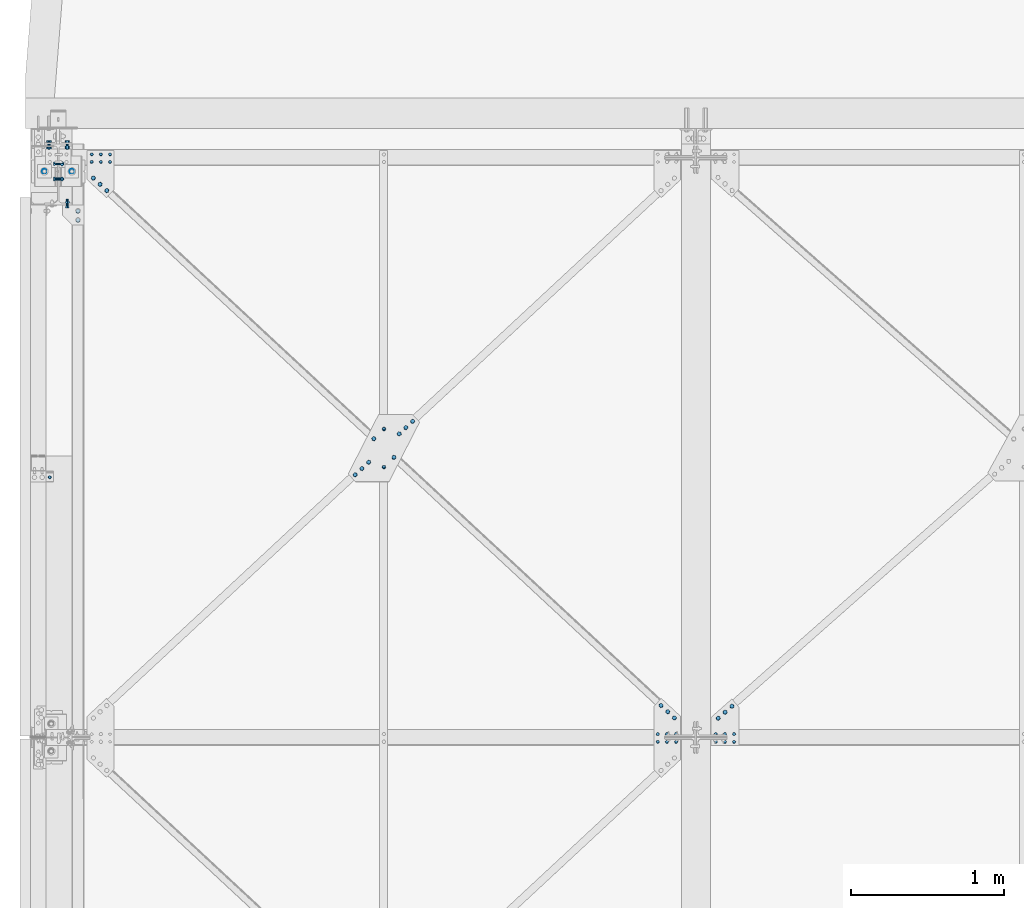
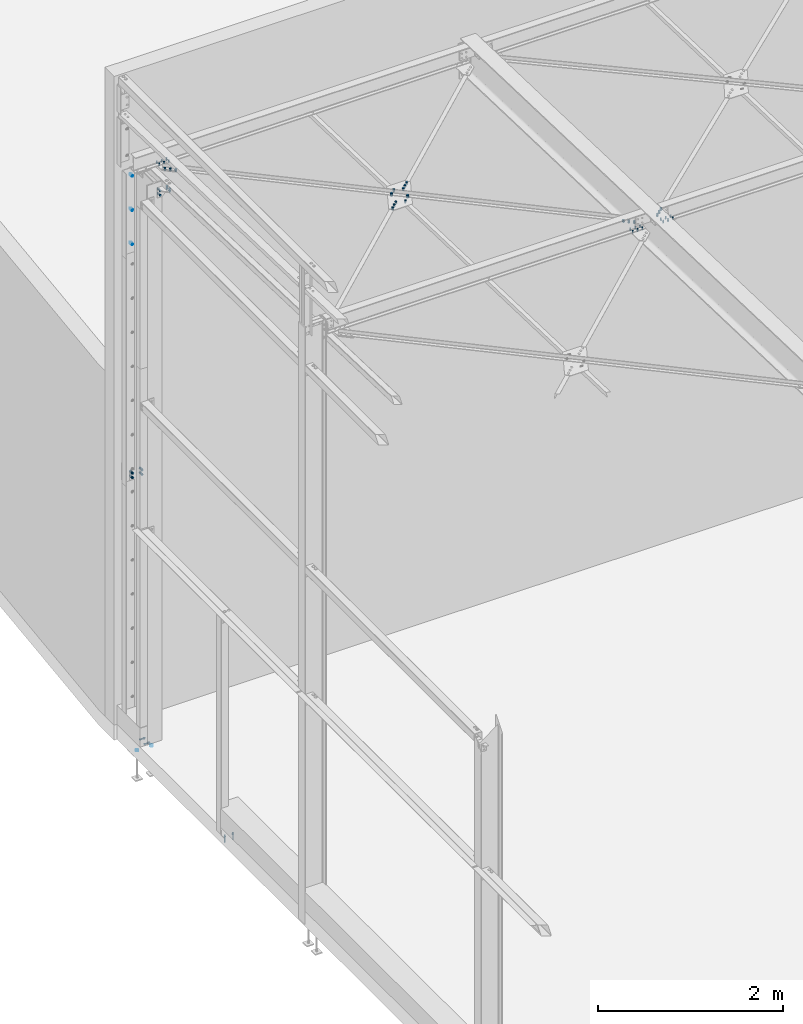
# One storey, part 151 of 362: 18 mechanical fasteners.
"""IFC2X3 building model written with IfcOpenShell, lengths in millimetres."""

from ifc_helpers import new_model, si_unit, frame, origin_with_axes, origin_2d_with_axis, place, context, subcontext, project, spatial, polyline, circle, outline, extrude, source, transform, mapped, material, type_object, element, save


model = new_model("IFC2X3")

# Units and contexts
model_context = context("Model", 3, precision=1e-05, world=origin_with_axes())
body_context = subcontext(model_context, "Body", "Model", "MODEL_VIEW")
ifc_project = project(units=[si_unit("LENGTHUNIT", "METRE", prefix="MILLI"), si_unit("AREAUNIT", "SQUARE_METRE"), si_unit("VOLUMEUNIT", "CUBIC_METRE"), si_unit("MASSUNIT", "GRAM", prefix="KILO"), si_unit("TIMEUNIT", "SECOND"), si_unit("PLANEANGLEUNIT", "RADIAN"), si_unit("SOLIDANGLEUNIT", "STERADIAN"), si_unit("THERMODYNAMICTEMPERATUREUNIT", "DEGREE_CELSIUS"), si_unit("LUMINOUSINTENSITYUNIT", "LUMEN")], contexts=[model_context])

# Site, building, storey
site_placement = place(None, origin_with_axes())
site = spatial("IfcSite", under=ifc_project, at=site_placement, Name="Undefined", CompositionType="ELEMENT")
building_placement = place(site_placement, origin_with_axes())
building = spatial("IfcBuilding", under=site, at=building_placement, Name="Undefined", CompositionType="ELEMENT")
storey_placement = place(building_placement, origin_with_axes())
storey = spatial("IfcBuildingStorey", under=building, at=storey_placement, Name="Undefined", CompositionType="ELEMENT", Elevation=0.0)

# Mechanical fasteners
ifc_material_1 = material(Name="8.8-SB-ZINGUE")
mechanical_fastener_type = type_object("IfcMechanicalFastenerType", Name="Bolt assembly")
shared_shape_1 = source(origin_with_axes(), body_context, "Body", "SweptSolid", [
    extrude(circle(Radius=7.0, at=origin_2d_with_axis()), frame((0.0, -0.100011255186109, 0.0), z_axis=(0.0, 1.0, 0.0), x_axis=(1.0, 0.0, 0.0)), (0.0, 0.0, 1.0), 13.6),
    extrude(circle(Radius=7.0, at=origin_2d_with_axis()), frame((0.0, -4.90000000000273, 0.0), z_axis=(0.0, 1.0, 0.0), x_axis=(1.0, 0.0, 0.0)), (0.0, 0.0, 1.0), 5.0),
    extrude(outline(polyline([(10.39230484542, 0.0), (5.19615242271, 9.00000000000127), (-5.19615242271, 9.00000000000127), (-10.39230484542, 0.0), (-5.19615242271, -9.00000000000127), (5.19615242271, -9.00000000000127), (10.39230484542, 0.0)])), frame((0.0, -12.9200004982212, 0.0), z_axis=(0.0, 1.0, 0.0), x_axis=(1.0, 0.0, 0.0)), (0.0, 0.0, 1.0), 7.92),
    extrude(circle(Radius=6.0, at=origin_2d_with_axis()), frame((0.0, -5.00000000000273, 0.0), z_axis=(0.0, 1.0, 0.0), x_axis=(1.0, 0.0, 0.0)), (0.0, 0.0, 1.0), 40.0),
    extrude(outline(polyline([(11.5008173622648, 0.0), (5.7504086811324, 9.96000000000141), (-5.7504086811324, 9.96000000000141), (-11.5008173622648, 0.0), (-5.7504086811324, -9.96000000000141), (5.7504086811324, -9.96000000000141), (11.5008173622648, 0.0)])), frame((0.0, 13.4999999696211, 0.0), z_axis=(0.0, 1.0, 0.0), x_axis=(1.0, 0.0, 0.0)), (0.0, 0.0, 1.0), 7.92),
])
mechanical_fastener_1_placement = place(storey_placement, frame((-60.0000079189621, 15276.500002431, 6810.00003069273), z_axis=(0.0, 0.0, -1.0), x_axis=(-1.0, 0.0, 0.0)))
element("IfcMechanicalFastener", 1, at=mechanical_fastener_1_placement, inside=storey, type_object=mechanical_fastener_type, material=ifc_material_1, Name="Bolt assembly", NominalDiameter=12.0, NominalLength=40.0, context=body_context, shape_type="MappedRepresentation", body=[
    mapped(shared_shape_1, transform((0.0, 0.0, -450.0))),
    mapped(shared_shape_1, transform((0.0, 0.0, 0.0))),
    mapped(shared_shape_1, transform((0.0, 0.0, 450.0))),
])
shared_shape_2 = source(origin_with_axes(), body_context, "Body", "SweptSolid", [
    extrude(circle(Radius=7.0, at=origin_2d_with_axis()), frame((0.0, -8.40001950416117, 0.0), z_axis=(0.0, 1.0, 0.0), x_axis=(1.0, 0.0, 0.0)), (0.0, 0.0, 1.0), 8.5),
    extrude(circle(Radius=7.0, at=origin_2d_with_axis()), frame((0.0, -0.100011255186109, 0.0), z_axis=(0.0, 1.0, 0.0), x_axis=(1.0, 0.0, 0.0)), (0.0, 0.0, 1.0), 6.1),
    extrude(outline(polyline([(10.39230484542, 0.0), (5.19615242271, 9.00000000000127), (-5.19615242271, 9.00000000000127), (-10.39230484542, 0.0), (-5.19615242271, -9.00000000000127), (5.19615242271, -9.00000000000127), (10.39230484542, 0.0)])), frame((0.0, -16.4200195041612, 0.0), z_axis=(0.0, 1.0, 0.0), x_axis=(1.0, 0.0, 0.0)), (0.0, 0.0, 1.0), 7.92),
    extrude(circle(Radius=6.0, at=origin_2d_with_axis()), frame((0.0, -8.5, 0.0), z_axis=(0.0, 1.0, 0.0), x_axis=(1.0, 0.0, 0.0)), (0.0, 0.0, 1.0), 30.0),
    extrude(outline(polyline([(11.5008173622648, 0.0), (5.7504086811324, 9.96000000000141), (-5.7504086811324, 9.96000000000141), (-11.5008173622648, 0.0), (-5.7504086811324, -9.96000000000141), (5.7504086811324, -9.96000000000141), (11.5008173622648, 0.0)])), frame((0.0, 6.0, 0.0), z_axis=(0.0, 1.0, 0.0), x_axis=(1.0, 0.0, 0.0)), (0.0, 0.0, 1.0), 7.92),
])
mechanical_fastener_2_placement = place(storey_placement, frame((220.000006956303, 15196.8588775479, 7372.32065103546), z_axis=(3.14103090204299e-11, 0.999506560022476, -0.0314107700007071), x_axis=(1.0, 0.0, 0.0)))
element("IfcMechanicalFastener", 2, at=mechanical_fastener_2_placement, inside=storey, type_object=mechanical_fastener_type, material=ifc_material_1, Name="Bolt assembly", NominalDiameter=12.0, NominalLength=30.0, context=body_context, shape_type="MappedRepresentation", body=[
    mapped(shared_shape_2, transform((0.0, 0.0, 25.0))),
    mapped(shared_shape_2, transform((60.00000000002, -1.00044417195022e-11, 24.9999999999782))),
    mapped(shared_shape_2, transform((120.00000000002, -1.90993887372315e-11, 24.9999999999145))),
    mapped(shared_shape_2, transform((0.0, 0.0, -25.0))),
    mapped(shared_shape_2, transform((59.9999999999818, -8.18545231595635e-12, -25.0000000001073))),
    mapped(shared_shape_2, transform((119.999999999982, -1.72803993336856e-11, -25.0000000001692))),
])
shared_shape_3 = source(origin_with_axes(), body_context, "Body", "SweptSolid", [
    extrude(circle(Radius=9.0, at=origin_2d_with_axis()), frame((0.0, 5.90507997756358, 0.0), z_axis=(0.0, 1.0, 0.0), x_axis=(1.0, 0.0, 0.0)), (0.0, 0.0, 1.0), 5.1),
    extrude(circle(Radius=9.0, at=origin_2d_with_axis()), frame((0.0, 0.1, 0.0), z_axis=(0.0, 1.0, 0.0), x_axis=(1.0, 0.0, 0.0)), (0.0, 0.0, 1.0), 6.0),
    extrude(outline(polyline([(13.85640646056, 0.0), (6.92820323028, 12.0000000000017), (-6.92820323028, 12.0000000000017), (-13.85640646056, 0.0), (-6.92820323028, -12.0000000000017), (6.92820323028, -12.0000000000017), (13.85640646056, 0.0)])), frame((0.0, -10.5600019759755, 0.0), z_axis=(0.0, 1.0, 0.0), x_axis=(1.0, 0.0, 0.0)), (0.0, 0.0, 1.0), 10.56),
    extrude(circle(Radius=8.0, at=origin_2d_with_axis()), frame((0.0, 0.0, 0.0), z_axis=(0.0, 1.0, 0.0), x_axis=(1.0, 0.0, 0.0)), (0.0, 0.0, 1.0), 30.0),
    extrude(outline(polyline([(15.3344231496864, 0.0), (7.6672115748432, 13.2800000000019), (-7.6672115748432, 13.2800000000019), (-15.3344231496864, 0.0), (-7.6672115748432, -13.2800000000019), (7.6672115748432, -13.2800000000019), (15.3344231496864, 0.0)])), frame((0.0, 11.005079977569, 0.0), z_axis=(0.0, 1.0, 0.0), x_axis=(1.0, 0.0, 0.0)), (0.0, 0.0, 1.0), 10.56),
])
mechanical_fastener_3_placement = place(storey_placement, frame((4326.09147071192, 11525.9582901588, 7487.68503665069), z_axis=(-0.662411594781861, 0.748770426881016, -0.023531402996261), x_axis=(0.74914009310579, 0.662084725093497, -0.0208071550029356)))
element("IfcMechanicalFastener", 3, at=mechanical_fastener_3_placement, inside=storey, type_object=mechanical_fastener_type, material=ifc_material_1, Name="Bolt assembly", NominalDiameter=16.0, NominalLength=30.0, context=body_context, shape_type="MappedRepresentation", body=[
    mapped(shared_shape_3, transform((0.0, 0.0, 0.0))),
    mapped(shared_shape_3, transform((60.0, 0.0, 0.0))),
    mapped(shared_shape_3, transform((120.0, 0.0, 0.0))),
])
shared_shape_4 = source(origin_with_axes(), body_context, "Body", "SweptSolid", [
    extrude(circle(Radius=7.0, at=origin_2d_with_axis()), frame((0.0, -8.39654616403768, 0.0), z_axis=(0.0, 1.0, 0.0), x_axis=(1.0, 0.0, 0.0)), (0.0, 0.0, 1.0), 8.5),
    extrude(circle(Radius=7.0, at=origin_2d_with_axis()), frame((0.0, -0.100011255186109, 0.0), z_axis=(0.0, 1.0, 0.0), x_axis=(1.0, 0.0, 0.0)), (0.0, 0.0, 1.0), 6.1),
    extrude(outline(polyline([(10.39230484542, 0.0), (5.19615242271, 9.00000000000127), (-5.19615242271, 9.00000000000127), (-10.39230484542, 0.0), (-5.19615242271, -9.00000000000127), (5.19615242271, -9.00000000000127), (10.39230484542, 0.0)])), frame((0.0, -16.4165461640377, 0.0), z_axis=(0.0, 1.0, 0.0), x_axis=(1.0, 0.0, 0.0)), (0.0, 0.0, 1.0), 7.92),
    extrude(circle(Radius=6.0, at=origin_2d_with_axis()), frame((0.0, -8.49654616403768, 0.0), z_axis=(0.0, 1.0, 0.0), x_axis=(1.0, 0.0, 0.0)), (0.0, 0.0, 1.0), 30.0),
    extrude(outline(polyline([(11.5008173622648, 0.0), (5.7504086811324, 9.96000000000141), (-5.7504086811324, 9.96000000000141), (-11.5008173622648, 0.0), (-5.7504086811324, -9.96000000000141), (5.7504086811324, -9.96000000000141), (11.5008173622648, 0.0)])), frame((0.0, 6.0, 0.0), z_axis=(0.0, 1.0, 0.0), x_axis=(1.0, 0.0, 0.0)), (0.0, 0.0, 1.0), 7.92),
])
for number, where, z_axis, x_axis, name in (
    (4, (4310.0000069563, 11396.8549319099, 7491.74233248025), (3.14103090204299e-11, 0.999506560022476, -0.0314107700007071), (1.0, 0.0, 0.0), "Bolt assembly"),
    (5, (4049.99999943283, 11396.8586773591, 7491.7422147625), (-1.26212139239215e-05, -0.999506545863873, 0.0314112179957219), (-0.999999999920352, 1.26150000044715e-05, -3.95999996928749e-07), "Bolt assembly"),
):
    element("IfcMechanicalFastener", number, at=place(storey_placement, frame(where, z_axis=z_axis, x_axis=x_axis)), inside=storey, type_object=mechanical_fastener_type, material=ifc_material_1, Name=name, NominalDiameter=12.0, NominalLength=30.0, context=body_context, shape_type="MappedRepresentation", body=[
        mapped(shared_shape_4, transform((0.0, 0.0, -25.0))),
        mapped(shared_shape_4, transform((59.9999999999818, -8.18545231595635e-12, -25.0000000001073))),
        mapped(shared_shape_4, transform((119.999999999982, -1.72803993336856e-11, -25.0000000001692))),
        mapped(shared_shape_4, transform((0.0, 0.0, 25.0))),
        mapped(shared_shape_4, transform((60.00000000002, -1.00044417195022e-11, 24.9999999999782))),
        mapped(shared_shape_4, transform((120.00000000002, -1.90993887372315e-11, 24.9999999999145))),
    ])
shared_shape_5 = source(origin_with_axes(), body_context, "Body", "SweptSolid", [
    extrude(circle(Radius=7.0, at=origin_2d_with_axis()), frame((0.0, -0.0999426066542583, 0.0), z_axis=(0.0, 1.0, 0.0), x_axis=(1.0, 0.0, 0.0)), (0.0, 0.0, 1.0), 5.1),
    extrude(circle(Radius=7.0, at=origin_2d_with_axis()), frame((0.0, 0.100057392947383, 0.0), z_axis=(0.0, 1.0, 0.0), x_axis=(1.0, 0.0, 0.0)), (0.0, 0.0, 1.0), 6.0),
    extrude(outline(polyline([(10.39230484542, 0.0), (5.19615242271, 9.00000000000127), (-5.19615242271, 9.00000000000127), (-10.39230484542, 0.0), (-5.19615242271, -9.00000000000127), (5.19615242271, -9.00000000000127), (10.39230484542, 0.0)])), frame((0.0, -7.91994260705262, 0.0), z_axis=(0.0, 1.0, 0.0), x_axis=(1.0, 0.0, 0.0)), (0.0, 0.0, 1.0), 7.92),
    extrude(circle(Radius=6.0, at=origin_2d_with_axis()), frame((0.0, 6.26397177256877e-05, 0.0), z_axis=(0.0, 1.0, 0.0), x_axis=(1.0, 0.0, 0.0)), (0.0, 0.0, 1.0), 30.0),
    extrude(outline(polyline([(11.5008173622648, 0.0), (5.7504086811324, 9.96000000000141), (-5.7504086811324, 9.96000000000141), (-11.5008173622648, 0.0), (-5.7504086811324, -9.96000000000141), (5.7504086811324, -9.96000000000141), (11.5008173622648, 0.0)])), frame((0.0, 6.00005739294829, 0.0), z_axis=(0.0, 1.0, 0.0), x_axis=(1.0, 0.0, 0.0)), (0.0, 0.0, 1.0), 7.92),
])
mechanical_fastener_4_placement = place(storey_placement, frame((2135.0000740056, 13296.8585640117, 7432.03143958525), z_axis=(0.0, -0.999506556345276, 0.031410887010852), x_axis=(-1.0, 0.0, 0.0)))
element("IfcMechanicalFastener", 6, at=mechanical_fastener_4_placement, inside=storey, type_object=mechanical_fastener_type, material=ifc_material_1, Name="Bolt assembly", NominalDiameter=12.0, NominalLength=30.0, context=body_context, shape_type="MappedRepresentation", body=[
    mapped(shared_shape_5, transform((0.0, -1.17324816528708e-10, -124.999999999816))),
    mapped(shared_shape_5, transform((0.0, 1.17324816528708e-10, 124.999999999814))),
])
shared_shape_6 = source(origin_with_axes(), body_context, "Body", "SweptSolid", [
    extrude(circle(Radius=9.0, at=origin_2d_with_axis()), frame((0.0, 5.90435274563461, 0.0), z_axis=(0.0, 1.0, 0.0), x_axis=(1.0, 0.0, 0.0)), (0.0, 0.0, 1.0), 5.1),
    extrude(circle(Radius=9.0, at=origin_2d_with_axis()), frame((0.0, 0.1, 0.0), z_axis=(0.0, 1.0, 0.0), x_axis=(1.0, 0.0, 0.0)), (0.0, 0.0, 1.0), 6.0),
    extrude(outline(polyline([(13.85640646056, 0.0), (6.92820323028, 12.0000000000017), (-6.92820323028, 12.0000000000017), (-13.85640646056, 0.0), (-6.92820323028, -12.0000000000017), (6.92820323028, -12.0000000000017), (13.85640646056, 0.0)])), frame((0.0, -10.5600019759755, 0.0), z_axis=(0.0, 1.0, 0.0), x_axis=(1.0, 0.0, 0.0)), (0.0, 0.0, 1.0), 10.56),
    extrude(circle(Radius=8.0, at=origin_2d_with_axis()), frame((0.0, 0.0, 0.0), z_axis=(0.0, 1.0, 0.0), x_axis=(1.0, 0.0, 0.0)), (0.0, 0.0, 1.0), 30.0),
    extrude(outline(polyline([(15.3344231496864, 0.0), (7.6672115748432, 13.2800000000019), (-7.6672115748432, 13.2800000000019), (-15.3344231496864, 0.0), (-7.6672115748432, -13.2800000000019), (7.6672115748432, -13.2800000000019), (15.3344231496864, 0.0)])), frame((0.0, 11.0043527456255, 0.0), z_axis=(0.0, 1.0, 0.0), x_axis=(1.0, 0.0, 0.0)), (0.0, 0.0, 1.0), 10.56),
])
mechanical_fastener_5_placement = place(storey_placement, frame((2235.26634015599, 13390.0155494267, 7429.10382057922), z_axis=(-0.680837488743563, 0.73207308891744, -0.0230066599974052), x_axis=(0.732434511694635, 0.680501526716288, -0.0213859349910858)))
element("IfcMechanicalFastener", 7, at=mechanical_fastener_5_placement, inside=storey, type_object=mechanical_fastener_type, material=ifc_material_1, Name="Bolt assembly", NominalDiameter=16.0, NominalLength=30.0, context=body_context, shape_type="MappedRepresentation", body=[
    mapped(shared_shape_6, transform((0.0, 0.0, 0.0))),
    mapped(shared_shape_6, transform((60.0, 0.0, 0.0))),
    mapped(shared_shape_6, transform((120.0, 0.0, 0.0))),
])
shared_shape_7 = source(origin_with_axes(), body_context, "Body", "SweptSolid", [
    extrude(circle(Radius=9.0, at=origin_2d_with_axis()), frame((0.0, -4.89761641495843, 0.0), z_axis=(0.0, 1.0, 0.0), x_axis=(1.0, 0.0, 0.0)), (0.0, 0.0, 1.0), 5.0),
    extrude(circle(Radius=9.0, at=origin_2d_with_axis()), frame((0.0, -0.100011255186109, 0.0), z_axis=(0.0, 1.0, 0.0), x_axis=(1.0, 0.0, 0.0)), (0.0, 0.0, 1.0), 6.1),
    extrude(outline(polyline([(13.85640646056, 0.0), (6.92820323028, 12.0000000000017), (-6.92820323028, 12.0000000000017), (-13.85640646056, 0.0), (-6.92820323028, -12.0000000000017), (6.92820323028, -12.0000000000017), (13.85640646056, 0.0)])), frame((0.0, -15.5576164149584, 0.0), z_axis=(0.0, 1.0, 0.0), x_axis=(1.0, 0.0, 0.0)), (0.0, 0.0, 1.0), 10.56),
    extrude(circle(Radius=8.0, at=origin_2d_with_axis()), frame((0.0, -4.99761641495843, 0.0), z_axis=(0.0, 1.0, 0.0), x_axis=(1.0, 0.0, 0.0)), (0.0, 0.0, 1.0), 30.0),
    extrude(outline(polyline([(15.3344231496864, 0.0), (7.6672115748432, 13.2800000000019), (-7.6672115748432, 13.2800000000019), (-15.3344231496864, 0.0), (-7.6672115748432, -13.2800000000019), (7.6672115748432, -13.2800000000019), (15.3344231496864, 0.0)])), frame((0.0, 6.0, 0.0), z_axis=(0.0, 1.0, 0.0), x_axis=(1.0, 0.0, 0.0)), (0.0, 0.0, 1.0), 10.56),
])
mechanical_fastener_6_placement = place(storey_placement, frame((2135.00000157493, 13296.8585526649, 7432.03143995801), z_axis=(-0.732427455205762, 0.680509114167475, -0.0213861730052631), x_axis=(0.680845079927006, 0.732066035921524, -0.0230064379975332)))
element("IfcMechanicalFastener", 8, at=mechanical_fastener_6_placement, inside=storey, type_object=mechanical_fastener_type, material=ifc_material_1, Name="Bolt assembly", NominalDiameter=16.0, NominalLength=30.0, context=body_context, shape_type="MappedRepresentation", body=[
    mapped(shared_shape_7, transform((-8.00355337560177e-11, 1.57342583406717e-10, -90.000000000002))),
    mapped(shared_shape_7, transform((8.36735125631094e-11, -1.5825207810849e-10, 90.0))),
])
shared_shape_8 = source(origin_with_axes(), body_context, "Body", "SweptSolid", [
    extrude(circle(Radius=9.0, at=origin_2d_with_axis()), frame((0.0, 5.90424749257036, 0.0), z_axis=(0.0, 1.0, 0.0), x_axis=(1.0, 0.0, 0.0)), (0.0, 0.0, 1.0), 5.1),
    extrude(circle(Radius=9.0, at=origin_2d_with_axis()), frame((0.0, 0.1, 0.0), z_axis=(0.0, 1.0, 0.0), x_axis=(1.0, 0.0, 0.0)), (0.0, 0.0, 1.0), 6.0),
    extrude(outline(polyline([(13.85640646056, 0.0), (6.92820323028, 12.0000000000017), (-6.92820323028, 12.0000000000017), (-13.85640646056, 0.0), (-6.92820323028, -12.0000000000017), (6.92820323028, -12.0000000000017), (13.85640646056, 0.0)])), frame((0.0, -10.5600019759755, 0.0), z_axis=(0.0, 1.0, 0.0), x_axis=(1.0, 0.0, 0.0)), (0.0, 0.0, 1.0), 10.56),
    extrude(circle(Radius=8.0, at=origin_2d_with_axis()), frame((0.0, 0.0, 0.0), z_axis=(0.0, 1.0, 0.0), x_axis=(1.0, 0.0, 0.0)), (0.0, 0.0, 1.0), 30.0),
    extrude(outline(polyline([(15.3344231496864, 0.0), (7.6672115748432, 13.2800000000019), (-7.6672115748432, 13.2800000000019), (-15.3344231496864, 0.0), (-7.6672115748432, -13.2800000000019), (7.6672115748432, -13.2800000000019), (15.3344231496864, 0.0)])), frame((0.0, 11.0042474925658, 0.0), z_axis=(0.0, 1.0, 0.0), x_axis=(1.0, 0.0, 0.0)), (0.0, 0.0, 1.0), 10.56),
])
mechanical_fastener_7_placement = place(storey_placement, frame((2034.73366298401, 13203.7015559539, 7434.95905933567), z_axis=(0.680837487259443, -0.732073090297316, 0.0230066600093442), x_axis=(-0.732434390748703, -0.68050165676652, 0.0213859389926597)))
element("IfcMechanicalFastener", 9, at=mechanical_fastener_7_placement, inside=storey, type_object=mechanical_fastener_type, material=ifc_material_1, Name="Bolt assembly", NominalDiameter=16.0, NominalLength=30.0, context=body_context, shape_type="MappedRepresentation", body=[
    mapped(shared_shape_8, transform((0.0, 0.0, 0.0))),
    mapped(shared_shape_8, transform((60.0, 0.0, 0.0))),
    mapped(shared_shape_8, transform((120.0, 0.0, 0.0))),
])
shared_shape_9 = source(origin_with_axes(), body_context, "Body", "SweptSolid", [
    extrude(circle(Radius=9.0, at=origin_2d_with_axis()), frame((0.0, -7.9, 0.0), z_axis=(0.0, 1.0, 0.0), x_axis=(1.0, 0.0, 0.0)), (0.0, 0.0, 1.0), 5.0),
    extrude(circle(Radius=9.0, at=origin_2d_with_axis()), frame((0.0, -3.10345380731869, 0.0), z_axis=(0.0, 1.0, 0.0), x_axis=(1.0, 0.0, 0.0)), (0.0, 0.0, 1.0), 6.1),
    extrude(outline(polyline([(13.85640646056, 0.0), (6.92820323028, 12.0000000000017), (-6.92820323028, 12.0000000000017), (-13.85640646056, 0.0), (-6.92820323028, -12.0000000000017), (6.92820323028, -12.0000000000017), (13.85640646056, 0.0)])), frame((0.0, -18.5600278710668, 0.0), z_axis=(0.0, 1.0, 0.0), x_axis=(1.0, 0.0, 0.0)), (0.0, 0.0, 1.0), 10.56),
    extrude(circle(Radius=8.0, at=origin_2d_with_axis()), frame((0.0, -8.0, 0.0), z_axis=(0.0, 1.0, 0.0), x_axis=(1.0, 0.0, 0.0)), (0.0, 0.0, 1.0), 30.0),
    extrude(outline(polyline([(15.3344231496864, 0.0), (7.6672115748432, 13.2800000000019), (-7.6672115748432, 13.2800000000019), (-15.3344231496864, 0.0), (-7.6672115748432, -13.2800000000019), (7.6672115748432, -13.2800000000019), (15.3344231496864, 0.0)])), frame((0.0, 2.99654619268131, 0.0), z_axis=(0.0, 1.0, 0.0), x_axis=(1.0, 0.0, 0.0)), (0.0, 0.0, 1.0), 10.56),
])
mechanical_fastener_8_placement = place(storey_placement, frame((230.964226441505, 15065.79980979, 7373.43447174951), z_axis=(0.680838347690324, 0.732072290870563, -0.0230066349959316), x_axis=(0.73243371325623, -0.680502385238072, 0.0213859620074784)))
element("IfcMechanicalFastener", 10, at=mechanical_fastener_8_placement, inside=storey, type_object=mechanical_fastener_type, material=ifc_material_1, Name="Bolt assembly", NominalDiameter=16.0, NominalLength=30.0, context=body_context, shape_type="MappedRepresentation", body=[
    mapped(shared_shape_9, transform((0.0, 0.0, 0.0))),
    mapped(shared_shape_9, transform((60.0, 0.0, 0.0))),
    mapped(shared_shape_9, transform((120.0, 0.0, 0.0))),
])
shared_shape_10 = source(origin_with_axes(), body_context, "Body", "SweptSolid", [
    extrude(circle(Radius=9.0, at=origin_2d_with_axis()), frame((0.0, -7.90204274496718, 0.0), z_axis=(0.0, 1.0, 0.0), x_axis=(1.0, 0.0, 0.0)), (0.0, 0.0, 1.0), 5.0),
    extrude(circle(Radius=9.0, at=origin_2d_with_axis()), frame((0.0, -3.10345380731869, 0.0), z_axis=(0.0, 1.0, 0.0), x_axis=(1.0, 0.0, 0.0)), (0.0, 0.0, 1.0), 6.1),
    extrude(outline(polyline([(13.85640646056, 0.0), (6.92820323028, 12.0000000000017), (-6.92820323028, 12.0000000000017), (-13.85640646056, 0.0), (-6.92820323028, -12.0000000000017), (6.92820323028, -12.0000000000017), (13.85640646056, 0.0)])), frame((0.0, -18.5620427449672, 0.0), z_axis=(0.0, 1.0, 0.0), x_axis=(1.0, 0.0, 0.0)), (0.0, 0.0, 1.0), 10.56),
    extrude(circle(Radius=8.0, at=origin_2d_with_axis()), frame((0.0, -8.00204274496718, 0.0), z_axis=(0.0, 1.0, 0.0), x_axis=(1.0, 0.0, 0.0)), (0.0, 0.0, 1.0), 30.0),
    extrude(outline(polyline([(15.3344231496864, 0.0), (7.6672115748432, 13.2800000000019), (-7.6672115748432, 13.2800000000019), (-15.3344231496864, 0.0), (-7.6672115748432, -13.2800000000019), (7.6672115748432, -13.2800000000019), (15.3344231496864, 0.0)])), frame((0.0, 2.99654619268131, 0.0), z_axis=(0.0, 1.0, 0.0), x_axis=(1.0, 0.0, 0.0)), (0.0, 0.0, 1.0), 10.56),
])
mechanical_fastener_9_placement = place(storey_placement, frame((4039.03556009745, 11527.7379528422, 7484.62417113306), z_axis=(-0.680837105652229, -0.732073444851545, 0.0230066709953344), x_axis=(-0.732434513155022, 0.680501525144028, -0.0213859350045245)))
element("IfcMechanicalFastener", 11, at=mechanical_fastener_9_placement, inside=storey, type_object=mechanical_fastener_type, material=ifc_material_1, Name="Bolt assembly", NominalDiameter=16.0, NominalLength=30.0, context=body_context, shape_type="MappedRepresentation", body=[
    mapped(shared_shape_10, transform((0.0, 0.0, 0.0))),
    mapped(shared_shape_10, transform((60.0, 0.0, 0.0))),
    mapped(shared_shape_10, transform((120.0, 0.0, 0.0))),
])
shared_shape_11 = source(origin_with_axes(), body_context, "Body", "SweptSolid", [
    extrude(circle(Radius=9.0, at=origin_2d_with_axis()), frame((0.0, -0.100011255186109, 0.0), z_axis=(0.0, 1.0, 0.0), x_axis=(1.0, 0.0, 0.0)), (0.0, 0.0, 1.0), 13.6),
    extrude(circle(Radius=9.0, at=origin_2d_with_axis()), frame((0.0, -9.9, 0.0), z_axis=(0.0, 1.0, 0.0), x_axis=(1.0, 0.0, 0.0)), (0.0, 0.0, 1.0), 10.0),
    extrude(outline(polyline([(13.85640646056, 0.0), (6.92820323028, 12.0000000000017), (-6.92820323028, 12.0000000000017), (-13.85640646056, 0.0), (-6.92820323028, -12.0000000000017), (6.92820323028, -12.0000000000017), (13.85640646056, 0.0)])), frame((0.0, -20.5600000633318, 0.0), z_axis=(0.0, 1.0, 0.0), x_axis=(1.0, 0.0, 0.0)), (0.0, 0.0, 1.0), 10.56),
    extrude(circle(Radius=8.0, at=origin_2d_with_axis()), frame((0.0, -10.0000010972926, 0.0), z_axis=(0.0, 1.0, 0.0), x_axis=(1.0, 0.0, 0.0)), (0.0, 0.0, 1.0), 50.0),
    extrude(outline(polyline([(15.3344231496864, 0.0), (7.6672115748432, 13.2800000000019), (-7.6672115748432, 13.2800000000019), (-15.3344231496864, 0.0), (-7.6672115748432, -13.2800000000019), (7.6672115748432, -13.2800000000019), (15.3344231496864, 0.0)])), frame((0.0, 13.4999999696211, 0.0), z_axis=(0.0, 1.0, 0.0), x_axis=(1.0, 0.0, 0.0)), (0.0, 0.0, 1.0), 10.56),
])
mechanical_fastener_10_placement = place(storey_placement, frame((59.9999985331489, 14890.0000024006, 7201.92450426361), z_axis=(-1.0, 0.0, 0.0), x_axis=(0.0, 0.0, 1.0)))
element("IfcMechanicalFastener", 12, at=mechanical_fastener_10_placement, inside=storey, type_object=mechanical_fastener_type, material=ifc_material_1, Name="Bolt assembly", NominalDiameter=16.0, NominalLength=50.0, context=body_context, shape_type="MappedRepresentation", body=[
    mapped(shared_shape_11, transform((0.0, 0.0, 0.0))),
    mapped(shared_shape_11, transform((60.0, 0.0, 0.0))),
])
shared_shape_12 = source(origin_with_axes(), body_context, "Body", "SweptSolid", [
    extrude(circle(Radius=9.0, at=origin_2d_with_axis()), frame((0.0, -3.89999843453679, 0.0), z_axis=(0.0, 1.0, 0.0), x_axis=(1.0, 0.0, 0.0)), (0.0, 0.0, 1.0), 4.0),
    extrude(circle(Radius=9.0, at=origin_2d_with_axis()), frame((0.0, -0.100011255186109, 0.0), z_axis=(0.0, 1.0, 0.0), x_axis=(1.0, 0.0, 0.0)), (0.0, 0.0, 1.0), 10.1),
    extrude(outline(polyline([(13.85640646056, 0.0), (6.92820323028, 12.0000000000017), (-6.92820323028, 12.0000000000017), (-13.85640646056, 0.0), (-6.92820323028, -12.0000000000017), (6.92820323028, -12.0000000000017), (13.85640646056, 0.0)])), frame((0.0, -14.560000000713, 0.0), z_axis=(0.0, 1.0, 0.0), x_axis=(1.0, 0.0, 0.0)), (0.0, 0.0, 1.0), 10.56),
    extrude(circle(Radius=8.0, at=origin_2d_with_axis()), frame((0.0, -3.99999923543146, 0.0), z_axis=(0.0, 1.0, 0.0), x_axis=(1.0, 0.0, 0.0)), (0.0, 0.0, 1.0), 40.0),
    extrude(outline(polyline([(15.3344231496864, 0.0), (7.6672115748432, 13.2800000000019), (-7.6672115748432, 13.2800000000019), (-15.3344231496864, 0.0), (-7.6672115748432, -13.2800000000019), (7.6672115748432, -13.2800000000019), (15.3344231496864, 0.0)])), frame((0.0, 9.99997734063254, 0.0), z_axis=(0.0, 1.0, 0.0), x_axis=(1.0, 0.0, 0.0)), (0.0, 0.0, 1.0), 10.56),
])
mechanical_fastener_11_placement = place(storey_placement, frame((130.0, 14790.0493460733, 7305.06556203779), z_axis=(-1.0, 0.0, 0.0), x_axis=(3.14103090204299e-11, 0.999506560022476, -0.0314107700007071)))
element("IfcMechanicalFastener", 13, at=mechanical_fastener_11_placement, inside=storey, type_object=mechanical_fastener_type, material=ifc_material_1, Name="Bolt assembly", NominalDiameter=16.0, NominalLength=40.0, context=body_context, shape_type="MappedRepresentation", body=[
    mapped(shared_shape_12, transform((0.0, 0.0, 0.0))),
    mapped(shared_shape_12, transform((60.0, 0.0, 0.0))),
])
ifc_material_2 = material(Name="HILTI-HSA-R")
shared_shape_13 = source(origin_with_axes(), body_context, "Body", "SweptSolid", [
    extrude(circle(Radius=7.0, at=origin_2d_with_axis()), frame((0.0, -7.0, 0.0), z_axis=(0.0, 1.0, 0.0), x_axis=(1.0, 0.0, 0.0)), (0.0, 0.0, 1.0), 7.1),
    extrude(outline(polyline([(10.39230484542, 0.0), (5.19615242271, 9.00000000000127), (-5.19615242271, 9.00000000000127), (-10.39230484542, 0.0), (-5.19615242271, -9.00000000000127), (5.19615242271, -9.00000000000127), (10.39230484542, 0.0)])), frame((0.0, -14.92, 0.0), z_axis=(0.0, 1.0, 0.0), x_axis=(1.0, 0.0, 0.0)), (0.0, 0.0, 1.0), 7.92),
    extrude(circle(Radius=6.0, at=origin_2d_with_axis()), frame((0.0, -7.0, 0.0), z_axis=(0.0, 1.0, 0.0), x_axis=(1.0, 0.0, 0.0)), (0.0, 0.0, 1.0), 89.2),
    extrude(outline(polyline([(11.5008173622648, 0.0), (5.7504086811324, 9.96000000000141), (-5.7504086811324, 9.96000000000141), (-11.5008173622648, 0.0), (-5.7504086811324, -9.96000000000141), (5.7504086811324, -9.96000000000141), (11.5008173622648, 0.0)])), frame((0.0, 0.0, 0.0), z_axis=(0.0, 1.0, 0.0), x_axis=(1.0, 0.0, 0.0)), (0.0, 0.0, 1.0), 7.92),
])
mechanical_fastener_12_placement = place(storey_placement, frame((-105.000003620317, 13105.0066102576, -100.000000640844), z_axis=(-1.0, 0.0, 0.0), x_axis=(0.0, 1.0, 0.0)))
element("IfcMechanicalFastener", 14, at=mechanical_fastener_12_placement, inside=storey, type_object=mechanical_fastener_type, material=ifc_material_2, Name="Bolt assembly", NominalDiameter=12.0, NominalLength=89.1999969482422, context=body_context, shape_type="MappedRepresentation", body=[
    mapped(shared_shape_13, transform((0.0, 0.0, -50.0))),
    mapped(shared_shape_13, transform((0.0, 0.0, 50.0))),
])
ifc_material_3 = material(Name="HR10.9")
shared_shape_14 = source(origin_with_axes(), body_context, "Body", "SweptSolid", [
    extrude(circle(Radius=9.0, at=origin_2d_with_axis()), frame((0.0, -0.100011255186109, 0.0), z_axis=(0.0, 1.0, 0.0), x_axis=(1.0, 0.0, 0.0)), (0.0, 0.0, 1.0), 13.6),
    extrude(circle(Radius=9.0, at=origin_2d_with_axis()), frame((0.0, -7.9, 0.0), z_axis=(0.0, 1.0, 0.0), x_axis=(1.0, 0.0, 0.0)), (0.0, 0.0, 1.0), 8.0),
    extrude(outline(polyline([(15.58845726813, 0.0), (7.794228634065, 13.5000000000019), (-7.794228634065, 13.5000000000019), (-15.58845726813, 0.0), (-7.794228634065, -13.5000000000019), (7.794228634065, -13.5000000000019), (15.58845726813, 0.0)])), frame((0.0, -22.0, 0.0), z_axis=(0.0, 1.0, 0.0), x_axis=(1.0, 0.0, 0.0)), (0.0, 0.0, 1.0), 10.0),
    extrude(circle(Radius=8.0, at=origin_2d_with_axis()), frame((0.0, -12.0, 0.0), z_axis=(0.0, 1.0, 0.0), x_axis=(1.0, 0.0, 0.0)), (0.0, 0.0, 1.0), 50.0),
    extrude(circle(Radius=15.0, at=origin_2d_with_axis()), frame((0.0, -12.0, 0.0), z_axis=(0.0, 1.0, 0.0), x_axis=(1.0, 0.0, 0.0)), (0.0, 0.0, 1.0), 4.0),
    extrude(circle(Radius=15.0, at=origin_2d_with_axis()), frame((0.0, 13.4999999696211, 0.0), z_axis=(0.0, 1.0, 0.0), x_axis=(1.0, 0.0, 0.0)), (0.0, 0.0, 1.0), 4.0),
    extrude(outline(polyline([(15.58845726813, 0.0), (7.794228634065, 13.5000000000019), (-7.794228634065, 13.5000000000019), (-15.58845726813, 0.0), (-7.794228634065, -13.5000000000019), (7.794228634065, -13.5000000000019), (15.58845726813, 0.0)])), frame((0.0, 17.4999999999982, 0.0), z_axis=(0.0, 1.0, 0.0), x_axis=(1.0, 0.0, 0.0)), (0.0, 0.0, 1.0), 15.0),
])
for number, where, z_axis, x_axis, name in (
    (15, (-60.0, 15290.0000024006, 3315.0), (0.0, 0.0, -1.0), (1.0, 0.0, 0.0), "Bolt assembly"),
    (16, (60.0, 15290.0000024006, 3315.0), (0.0, 0.0, 1.0), (-1.0, 0.0, 0.0), "Bolt assembly"),
):
    element("IfcMechanicalFastener", number, at=place(storey_placement, frame(where, z_axis=z_axis, x_axis=x_axis)), inside=storey, type_object=mechanical_fastener_type, material=ifc_material_3, Name=name, NominalDiameter=16.0, NominalLength=50.0, context=body_context, shape_type="MappedRepresentation", body=[
        mapped(shared_shape_14, transform((0.0, 0.0, -30.0))),
        mapped(shared_shape_14, transform((0.0, 0.0, 30.0))),
    ])
ifc_material_4 = material(Name="6.8")
shared_shape_15 = source(origin_with_axes(), body_context, "Body", "SweptSolid", [
    extrude(circle(Radius=13.0, at=origin_2d_with_axis()), frame((0.0, 0.0, 0.0), z_axis=(0.0, 1.0, 0.0), x_axis=(1.0, 0.0, 0.0)), (0.0, 0.0, 1.0), 10.1),
])
mechanical_fastener_13_placement = place(storey_placement, frame((7.3411058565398e-08, 15109.9999996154, -200.0), z_axis=(-1.0, 0.0, 0.0), x_axis=(0.0, 1.0, 0.0)))
element("IfcMechanicalFastener", 17, at=mechanical_fastener_13_placement, inside=storey, type_object=mechanical_fastener_type, material=ifc_material_4, Name="Bolt assembly", NominalDiameter=24.0, NominalLength=10.0, context=body_context, shape_type="MappedRepresentation", body=[
    mapped(shared_shape_15, transform((-8.00355337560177e-11, 1.57342583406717e-10, -90.000000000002))),
    mapped(shared_shape_15, transform((8.36735125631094e-11, -1.5825207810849e-10, 90.0))),
])
shared_shape_16 = source(origin_with_axes(), body_context, "Body", "SweptSolid", [
    extrude(circle(Radius=9.0, at=origin_2d_with_axis()), frame((0.0, -4.29715063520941, 0.0), z_axis=(0.0, 1.0, 0.0), x_axis=(1.0, 0.0, 0.0)), (0.0, 0.0, 1.0), 8.6),
    extrude(circle(Radius=9.0, at=origin_2d_with_axis()), frame((0.0, -19.9, 0.0), z_axis=(0.0, 1.0, 0.0), x_axis=(1.0, 0.0, 0.0)), (0.0, 0.0, 1.0), 15.0),
    extrude(circle(Radius=9.0, at=origin_2d_with_axis()), frame((0.0, 4.9000000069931, 0.0), z_axis=(0.0, 1.0, 0.0), x_axis=(1.0, 0.0, 0.0)), (0.0, 0.0, 1.0), 15.1),
    extrude(outline(polyline([(13.85640646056, 0.0), (6.92820323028, 12.0000000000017), (-6.92820323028, 12.0000000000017), (-13.85640646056, 0.0), (-6.92820323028, -12.0000000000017), (6.92820323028, -12.0000000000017), (13.85640646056, 0.0)])), frame((0.0, -30.56, 0.0), z_axis=(0.0, 1.0, 0.0), x_axis=(1.0, 0.0, 0.0)), (0.0, 0.0, 1.0), 10.56),
    extrude(circle(Radius=8.0, at=origin_2d_with_axis()), frame((0.0, -20.0, 0.0), z_axis=(0.0, 1.0, 0.0), x_axis=(1.0, 0.0, 0.0)), (0.0, 0.0, 1.0), 60.0),
    extrude(outline(polyline([(15.3344231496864, 0.0), (7.6672115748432, 13.2800000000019), (-7.6672115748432, 13.2800000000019), (-15.3344231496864, 0.0), (-7.6672115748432, -13.2800000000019), (7.6672115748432, -13.2800000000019), (15.3344231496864, 0.0)])), frame((0.0, 20.0, 0.0), z_axis=(0.0, 1.0, 0.0), x_axis=(1.0, 0.0, 0.0)), (0.0, 0.0, 1.0), 10.56),
])
mechanical_fastener_14_placement = place(storey_placement, frame((-0.00284890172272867, 15110.0000024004, -114.999999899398), z_axis=(0.0, -1.0, 0.0), x_axis=(0.0, 0.0, -1.0)))
element("IfcMechanicalFastener", 18, at=mechanical_fastener_14_placement, inside=storey, type_object=mechanical_fastener_type, material=ifc_material_1, Name="Bolt assembly", NominalDiameter=16.0, NominalLength=60.0, context=body_context, shape_type="MappedRepresentation", body=[
    mapped(shared_shape_16, transform((0.0, 0.0, -50.0))),
    mapped(shared_shape_16, transform((0.0, 0.0, 50.0))),
])

save(model, "model.ifc")
